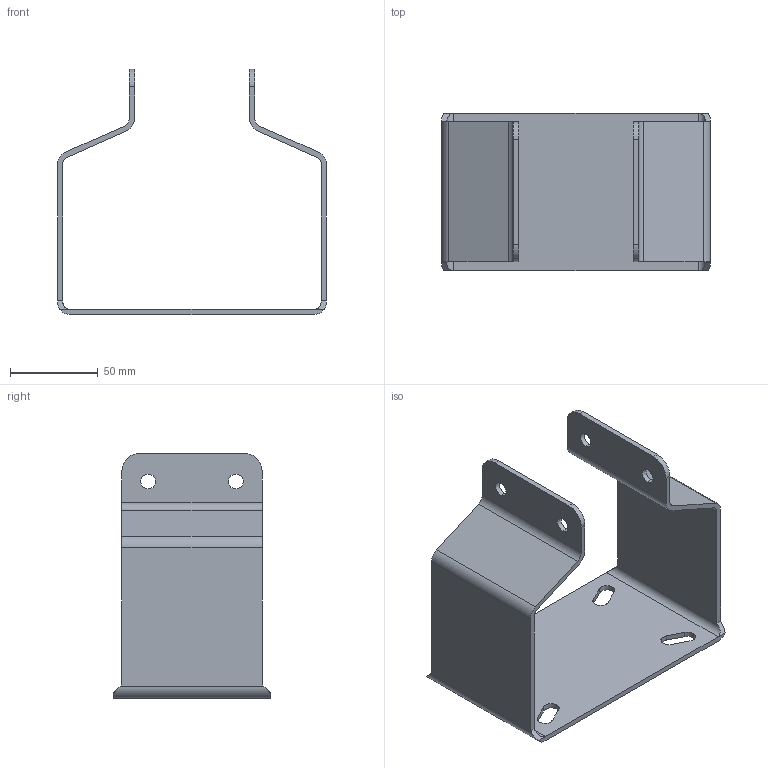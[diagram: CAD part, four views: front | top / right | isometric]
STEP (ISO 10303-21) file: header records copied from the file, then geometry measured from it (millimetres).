
FILE_DESCRIPTION (( 'STEP AP214' ), '1' );
FILE_NAME ('SAHBC 90S.step', '2017-04-05T08:05:52', ( '' ), ( '' ), 'SwSTEP 2.0', 'SolidWorks 2015', '' );
FILE_SCHEMA (( 'AUTOMOTIVE_DESIGN' ));
Length unit declared in the file: millimetre
Products named in the file (1): SAHBC 90S
Bounding box: 153.5 x 90 x 140 mm (x, y, z)
Volume: 115115.5 mm3; surface area: 80962 mm2
Topology: 1 solids, 1 shells, 70 faces, 200 edges, 132 vertices
Faces by surface type: cylinder 36, plane 34
Entity records: 2366 total; most frequent: CARTESIAN_POINT 427, DIRECTION 402, ORIENTED_EDGE 400, EDGE_CURVE 200, AXIS2_PLACEMENT_3D 139, VERTEX_POINT 132, VECTOR 124, LINE 124
